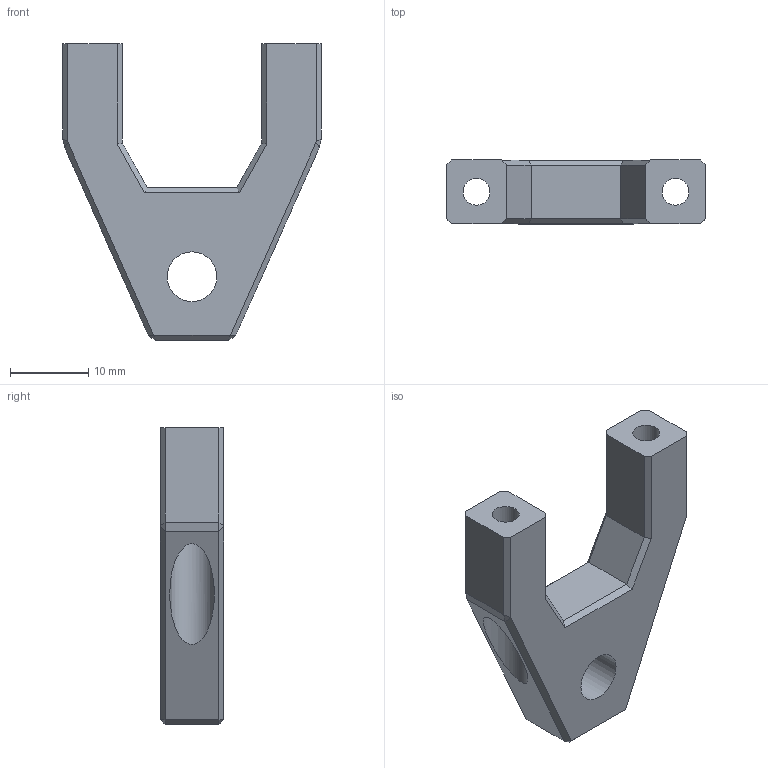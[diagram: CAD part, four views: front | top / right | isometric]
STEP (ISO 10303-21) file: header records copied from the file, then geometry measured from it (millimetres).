
FILE_DESCRIPTION(/* description */ ('STEP AP242 Edition 2','CAx-IF Rec.Pracs.---Representation and Presentation of Product Manufacturing Information (PMI)---4.0---2014-10-13','CAx-IF Rec.Pracs.---3D Tessellated Geometry---0.4---2014-09-14','2;1','CAx-IF Rec.Pracs.---User Defined Attributes---1.5---2016-08-15'),/* implementation_level */ '2;1');
FILE_NAME(/* name */ 'Main - Bevel Gear Wheel holder',/* time_stamp */ '2026-09-13T15:49:57Z',/* author */ (''),/* organization */ (''),/* preprocessor_version */ 'ST-DEVELOPER v20',/* originating_system */ 'ONSHAPE BY PTC INC, 1.220',/* authorisation */ ' ');
FILE_SCHEMA (('AP242_MANAGED_MODEL_BASED_3D_ENGINEERING_MIM_LF { 1 0 10303 442 3 1 4 }'));
Length unit declared in the file: metre
Products named in the file (1): Bevel Gear Wheel holder
Bounding box: 33.02 x 8.13 x 37.91 mm (x, y, z)
Volume: 4058.9 mm3; surface area: 3184.8 mm2
Topology: 1 solids, 1 shells, 53 faces, 117 edges, 68 vertices
Faces by surface type: plane 48, cylinder 5
Full cylindrical faces by diameter (mm): 3.429 x2, 5.715 x2, 6.35 x1
Entity records: 1392 total; most frequent: CARTESIAN_POINT 230, DIRECTION 228, ORIENTED_EDGE 220, EDGE_CURVE 110, LINE 100, VECTOR 100, VERTEX_POINT 66, EDGE_LOOP 66
